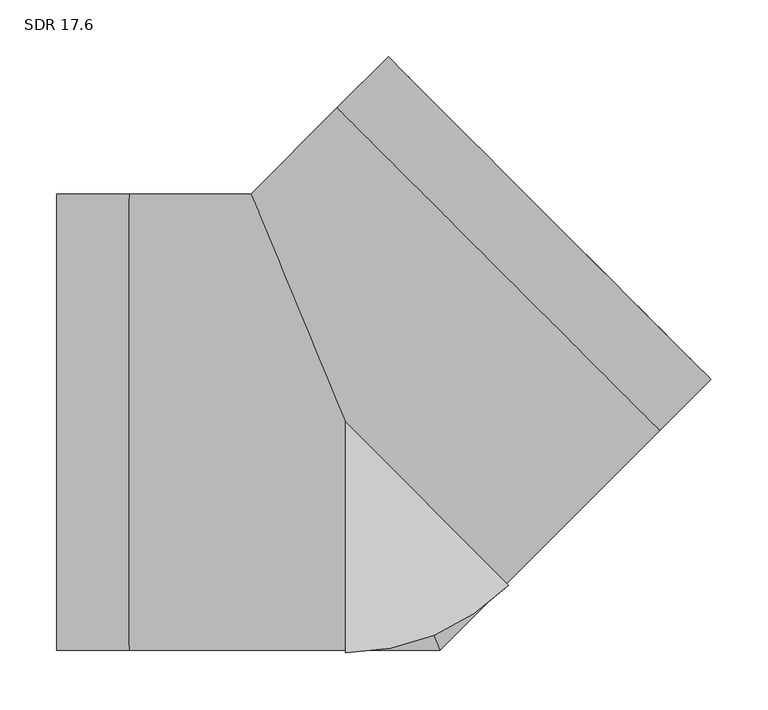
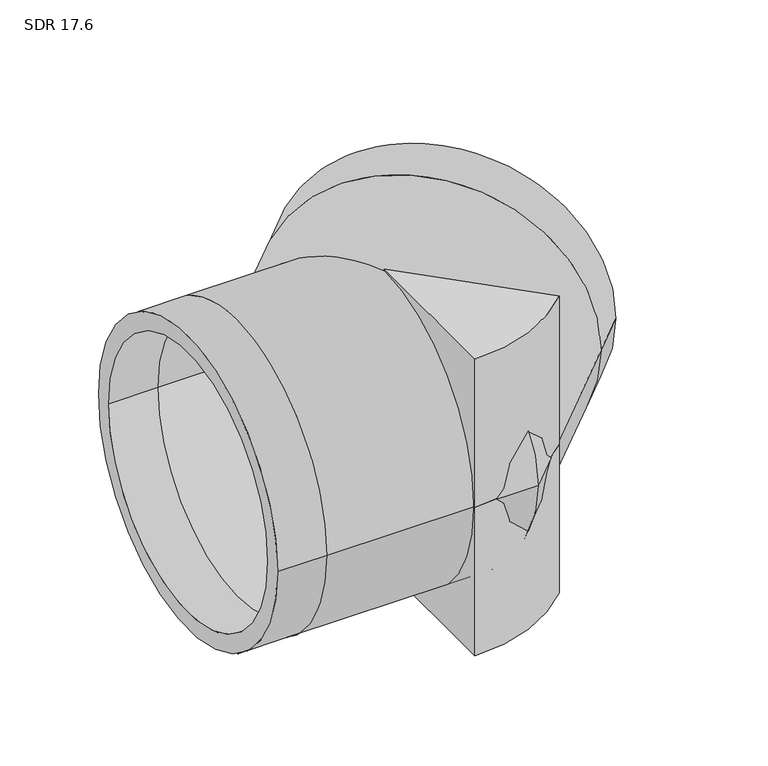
"""IFC4 building model written with IfcOpenShell, lengths in millimetres: pipe fitting geometry, Aquatherm - Elbow Blue BW Segmented : SDR 17.6."""

from ifc_helpers import new_model, si_unit, point, frame, origin, origin_with_axes, origin_2d, place, context, project, spatial, polyline, circle_curve, ellipse_curve, trimmed, segment, composite_curve, outline, extrude, source, transform, mapped, element, save
from ifc_brep_helpers import plane_surface, cylinder_surface, revolved_surface, advanced_brep


def sdr_17_6_6a8bb033(model_context):
    return source(origin(), model_context, "Body", "SolidModel", [
        extrude(outline(composite_curve([segment(polyline([(0.0, -203.2), (0.0, 0.0), (143.6840979, -143.6840979)]), True, "CONTINUOUS"), segment(trimmed(circle_curve(origin_2d(), 203.2), [point((143.6840979, -143.6840979))], [point((0.0, -203.2))], False, "CARTESIAN"), True, "CONTINUOUS")], self_intersect=False)), frame((0.0, 0.0, -203.2), z_axis=(0.0, 0.0, 1.0), x_axis=(1.0, 0.0, 0.0)), (0.0, 0.0, 1.0), 203.2),
        extrude(outline(composite_curve([segment(trimmed(circle_curve(origin_2d(), 203.2), [point((143.6840979, -143.6840979))], [point((0.0, -203.2))], False, "CARTESIAN"), True, "CONTINUOUS"), segment(polyline([(0.0, -203.2), (0.0, 0.0), (143.6840979, -143.6840979)]), True, "CONTINUOUS")], self_intersect=False)), origin_with_axes(), (0.0, 0.0, 1.0), 203.2),
        advanced_brep(
        [(-254.0, -200.66, 0.0), (-254.0, 200.66, 0.0), (-254.0, -177.8597514, 0.0), (-254.0, 177.8597514, 0.0), (321.4931691, 37.7170757, 0.0), (37.7170757, 321.4931691, 0.0), (305.3709588, 53.8392861, 0.0), (53.8392861, 305.3709588, 0.0), (-190.5, -200.66, 0.0), (-190.5, 200.66, 0.0), (-190.5, -177.8597514, 0.0), (-190.5, 177.8597514, 0.0), (83.1160934, -200.66, 0.0), (-83.1160934, 200.66, 0.0), (73.6719212, -177.8597514, 0.0), (-73.6719212, 177.8597514, 0.0), (276.5918885, -7.1842049, 0.0), (-7.1842049, 276.5918885, 0.0), (260.4696782, 8.9380055, 0.0), (8.9380055, 260.4696782, 0.0)],
        [
            (0, 1, circle_curve(frame((-254.0, 0.0, 0.0), z_axis=(-1.0, 0.0, 0.0), x_axis=(0.0, 1.0, 0.0)), 200.66)),
            (1, 0, circle_curve(frame((-254.0, 0.0, 0.0), z_axis=(-1.0, 0.0, 0.0), x_axis=(0.0, 1.0, 0.0)), 200.66)),
            (2, 3, circle_curve(frame((-254.0, 0.0, 0.0), z_axis=(1.0, 0.0, 0.0), x_axis=(0.0, 1.0, 0.0)), 177.8597514)),
            (3, 2, circle_curve(frame((-254.0, 0.0, 0.0), z_axis=(1.0, 0.0, 0.0), x_axis=(0.0, 1.0, 0.0)), 177.8597514)),
            (4, 5, circle_curve(frame((179.6051224, 179.6051224, 0.0), z_axis=(0.7071067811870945, 0.7071067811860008, 0.0), x_axis=(-0.7071067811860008, 0.7071067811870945, 0.0)), 200.66)),
            (5, 4, circle_curve(frame((179.6051224, 179.6051224, 0.0), z_axis=(0.7071067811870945, 0.7071067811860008, 0.0), x_axis=(-0.7071067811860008, 0.7071067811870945, 0.0)), 200.66)),
            (6, 7, circle_curve(frame((179.6051224, 179.6051224, 0.0), z_axis=(-0.7071067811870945, -0.7071067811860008, 0.0), x_axis=(-0.7071067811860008, 0.7071067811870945, 0.0)), 177.8597514)),
            (7, 6, circle_curve(frame((179.6051224, 179.6051224, 0.0), z_axis=(-0.7071067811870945, -0.7071067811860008, 0.0), x_axis=(-0.7071067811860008, 0.7071067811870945, 0.0)), 177.8597514)),
            (0, 8),
            (8, 9, circle_curve(frame((-190.5, 0.0, 0.0), z_axis=(-1.0, 0.0, 0.0), x_axis=(0.0, 1.0, 0.0)), 200.66)),
            (9, 1),
            (9, 8, circle_curve(frame((-190.5, 0.0, 0.0), z_axis=(-1.0, 0.0, 0.0), x_axis=(0.0, 1.0, 0.0)), 200.66)),
            (2, 10),
            (10, 11, circle_curve(frame((-190.5, 0.0, 0.0), z_axis=(1.0, 0.0, 0.0), x_axis=(0.0, 1.0, 0.0)), 177.8597514)),
            (11, 3),
            (11, 10, circle_curve(frame((-190.5, 0.0, 0.0), z_axis=(1.0, 0.0, 0.0), x_axis=(0.0, 1.0, 0.0)), 177.8597514)),
            (8, 12),
            (12, 13, ellipse_curve(frame((0.0, 0.0, 0.0), z_axis=(-0.9238795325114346, -0.3826834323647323, 0.0), x_axis=(-0.38268343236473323, 0.9238795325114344, 0.0)), 217.1928189, 200.66)),
            (13, 9),
            (13, 12, ellipse_curve(frame((0.0, 0.0, 0.0), z_axis=(-0.9238795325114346, -0.3826834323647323, 0.0), x_axis=(-0.38268343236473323, 0.9238795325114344, 0.0)), 217.1928189, 200.66)),
            (10, 14),
            (14, 15, ellipse_curve(frame((0.0, 0.0, 0.0), z_axis=(0.9238795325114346, 0.3826834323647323, 0.0), x_axis=(0.38268343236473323, -0.9238795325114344, 0.0)), 192.5140077, 177.8597514)),
            (15, 11),
            (15, 14, ellipse_curve(frame((0.0, 0.0, 0.0), z_axis=(0.9238795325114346, 0.3826834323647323, 0.0), x_axis=(0.38268343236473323, -0.9238795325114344, 0.0)), 192.5140077, 177.8597514)),
            (12, 16),
            (16, 17, circle_curve(frame((134.7038418, 134.7038418, 0.0), z_axis=(-0.7071067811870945, -0.7071067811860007, 0.0), x_axis=(-0.7071067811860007, 0.7071067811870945, 0.0)), 200.66)),
            (17, 13),
            (17, 16, circle_curve(frame((134.7038418, 134.7038418, 0.0), z_axis=(-0.7071067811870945, -0.7071067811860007, 0.0), x_axis=(-0.7071067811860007, 0.7071067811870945, 0.0)), 200.66)),
            (14, 18),
            (18, 19, circle_curve(frame((134.7038418, 134.7038418, 0.0), z_axis=(0.7071067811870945, 0.7071067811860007, 0.0), x_axis=(-0.7071067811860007, 0.7071067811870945, 0.0)), 177.8597514)),
            (19, 15),
            (19, 18, circle_curve(frame((134.7038418, 134.7038418, 0.0), z_axis=(0.7071067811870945, 0.7071067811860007, 0.0), x_axis=(-0.7071067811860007, 0.7071067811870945, 0.0)), 177.8597514)),
            (16, 4),
            (5, 17),
            (18, 6),
            (7, 19),
        ],
        [
            plane_surface(frame((-254.0, 0.0, 0.0), z_axis=(-1.0, 0.0, 0.0), x_axis=(0.0, 0.0, 1.0))),
            plane_surface(frame((179.6051224, 179.6051224, 0.0), z_axis=(0.7071067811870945, 0.7071067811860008, 0.0), x_axis=(0.0, 0.0, 1.0))),
            cylinder_surface(frame((-254.0, 0.0, 0.0), z_axis=(-1.0, 0.0, 0.0), x_axis=(0.0, 1.0, 0.0)), 200.66),
            revolved_surface(polyline([(-190.5, 177.8597514, 0.0), (-254.0, 177.8597514, 0.0)]), (-254.0, 0.0, 0.0), (1.0, 0.0, 0.0)),
            cylinder_surface(frame((-190.5, 0.0, 0.0), z_axis=(-1.0, 0.0, 0.0), x_axis=(0.0, 1.0, 0.0)), 200.66),
            revolved_surface(polyline([(73.6719212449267, 177.8597514, 0.0), (-190.5, 177.8597514, 0.0)]), (-190.5, 0.0, 0.0), (1.0, 0.0, 0.0)),
            cylinder_surface(frame((0.0, 0.0, 0.0), z_axis=(-0.7071067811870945, -0.7071067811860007, 0.0), x_axis=(-0.7071067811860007, 0.7071067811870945, 0.0)), 200.66),
            revolved_surface(polyline([(8.938005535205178, 260.4696781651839, 0.0), (-177.8597514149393, 73.67192121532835, 0.0)]), (0.0, 0.0, 0.0), (0.7071067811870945, 0.7071067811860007, 0.0)),
            cylinder_surface(frame((134.7038418, 134.7038418, 0.0), z_axis=(-0.7071067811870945, -0.7071067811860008, 0.0), x_axis=(-0.7071067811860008, 0.7071067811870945, 0.0)), 200.66),
            revolved_surface(polyline([(53.839286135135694, 305.37095876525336, 0.0), (8.9380054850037, 260.4696781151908, 0.0)]), (134.7038418, 134.7038418, 0.0), (0.7071067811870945, 0.7071067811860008, 0.0)),
        ],
        [
            (0, [[1, 2], [3, 4]]),
            (1, [[5, 6], [7, 8]]),
            (2, [[-1, 9, 10, 11]]),
            (2, [[-2, -11, 12, -9]]),
            (3, [[-3, 13, 14, 15]]),
            (3, [[-4, -15, 16, -13]]),
            (4, [[-10, 17, 18, 19]]),
            (4, [[-12, -19, 20, -17]]),
            (5, [[-14, 21, 22, 23]]),
            (5, [[-16, -23, 24, -21]]),
            (6, [[-18, 25, 26, 27]]),
            (6, [[-20, -27, 28, -25]]),
            (7, [[-22, 29, 30, 31]]),
            (7, [[-24, -31, 32, -29]]),
            (8, [[-26, 33, -6, 34]]),
            (8, [[-28, -34, -5, -33]]),
            (9, [[-30, 35, -8, 36]]),
            (9, [[-32, -36, -7, -35]]),
        ],
    ),
    ])


if __name__ == "__main__":
    model = new_model("IFC4")
    model_context = context("Model", 3, world=origin())
    ifc_project = project(units=[si_unit("LENGTHUNIT", "METRE", prefix="MILLI")], contexts=[model_context])
    site = spatial("IfcSite", under=ifc_project)
    building = spatial("IfcBuilding", under=site)
    placement = place(None, origin())
    sdr_17_6_shape = sdr_17_6_6a8bb033(model_context)
    element("IfcPipeFitting", 1, ObjectType="Aquatherm - Elbow Blue BW Segmented : SDR 17.6", at=placement, inside=building, context=model_context, shape_type="MappedRepresentation", body=[
        mapped(sdr_17_6_shape, transform((0.0, 0.0, 0.0), x_axis=(1.0, 0.0, 0.0), y_axis=(0.0, 1.0, 0.0), z_axis=(0.0, 0.0, 1.0))),
    ])
    save(model, "model.ifc")
